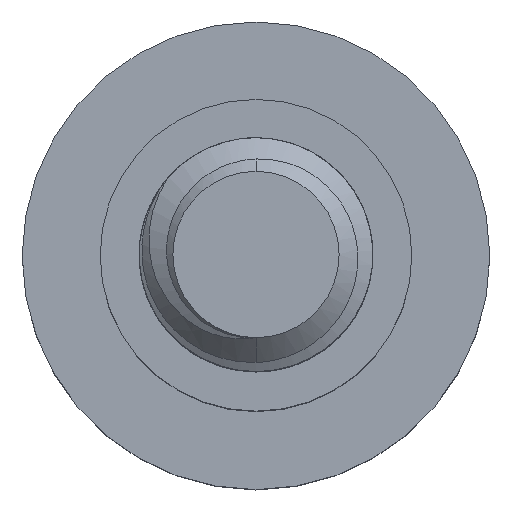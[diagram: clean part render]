
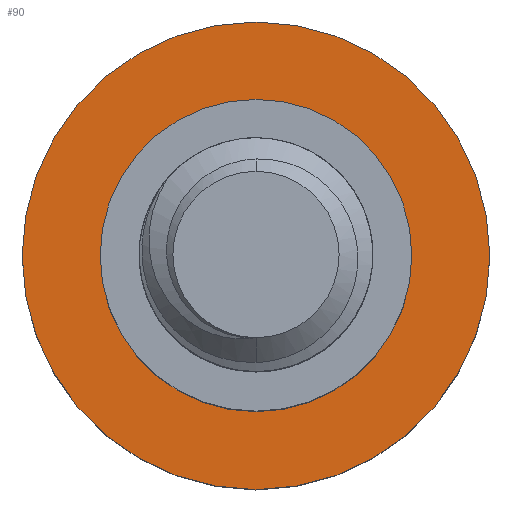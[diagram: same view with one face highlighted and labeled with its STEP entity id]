
A CAD part, top view. The second image highlights one B-rep face of the part: STEP entity #90.
In plain terms, the highlighted planar face has unit normal (0, 0, 1).
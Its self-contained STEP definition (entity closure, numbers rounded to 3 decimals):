
#13 = ORIENTED_EDGE ( 'NONE', *, *, #1671, .T. ) ;
#73 = DIRECTION ( 'NONE',  ( 0., 0., -1. ) ) ;
#90 = ADVANCED_FACE ( 'NONE', ( #756, #2461 ), #3384, .F. ) ;
#91 = VERTEX_POINT ( 'NONE', #3453 ) ;
#114 = CARTESIAN_POINT ( 'NONE',  ( 0., 0., -8. ) ) ;
#135 = DIRECTION ( 'NONE',  ( 0., 0., -1. ) ) ;
#248 = EDGE_CURVE ( 'NONE', #1297, #91, #4093, .T. ) ;
#375 = AXIS2_PLACEMENT_3D ( 'NONE', #2744, #2371, #2348 ) ;
#459 = ORIENTED_EDGE ( 'NONE', *, *, #3101, .F. ) ;
#486 = CARTESIAN_POINT ( 'NONE',  ( 4., 0., -8. ) ) ;
#561 = DIRECTION ( 'NONE',  ( -1., 0., 0. ) ) ;
#692 = DIRECTION ( 'NONE',  ( -1., 0., 0. ) ) ;
#717 = CIRCLE ( 'NONE', #2107, 4. ) ;
#756 = FACE_BOUND ( 'NONE', #3110, .T. ) ;
#789 = AXIS2_PLACEMENT_3D ( 'NONE', #1319, #2568, #3889 ) ;
#798 = CIRCLE ( 'NONE', #375, 6. ) ;
#912 = DIRECTION ( 'NONE',  ( 0., 0., -1. ) ) ;
#920 = CIRCLE ( 'NONE', #2719, 4. ) ;
#1297 = VERTEX_POINT ( 'NONE', #2336 ) ;
#1319 = CARTESIAN_POINT ( 'NONE',  ( 0., 0., -8. ) ) ;
#1541 = VERTEX_POINT ( 'NONE', #486 ) ;
#1671 = EDGE_CURVE ( 'NONE', #1541, #3467, #920, .T. ) ;
#2107 = AXIS2_PLACEMENT_3D ( 'NONE', #4182, #912, #561 ) ;
#2257 = ORIENTED_EDGE ( 'NONE', *, *, #248, .F. ) ;
#2336 = CARTESIAN_POINT ( 'NONE',  ( 6., 0., -8. ) ) ;
#2348 = DIRECTION ( 'NONE',  ( -1., 0., 0. ) ) ;
#2371 = DIRECTION ( 'NONE',  ( 0., 0., -1. ) ) ;
#2461 = FACE_OUTER_BOUND ( 'NONE', #3115, .T. ) ;
#2510 = EDGE_CURVE ( 'NONE', #3467, #1541, #717, .T. ) ;
#2568 = DIRECTION ( 'NONE',  ( 0., 0., -1. ) ) ;
#2660 = CARTESIAN_POINT ( 'NONE',  ( 0., 0., -8. ) ) ;
#2713 = AXIS2_PLACEMENT_3D ( 'NONE', #114, #135, #4057 ) ;
#2719 = AXIS2_PLACEMENT_3D ( 'NONE', #2660, #73, #692 ) ;
#2744 = CARTESIAN_POINT ( 'NONE',  ( 0., 0., -8. ) ) ;
#3101 = EDGE_CURVE ( 'NONE', #91, #1297, #798, .T. ) ;
#3110 = EDGE_LOOP ( 'NONE', ( #3381, #13 ) ) ;
#3115 = EDGE_LOOP ( 'NONE', ( #2257, #459 ) ) ;
#3381 = ORIENTED_EDGE ( 'NONE', *, *, #2510, .T. ) ;
#3384 = PLANE ( 'NONE',  #2713 ) ;
#3453 = CARTESIAN_POINT ( 'NONE',  ( -6., 0., -8. ) ) ;
#3467 = VERTEX_POINT ( 'NONE', #4088 ) ;
#3889 = DIRECTION ( 'NONE',  ( -1., 0., 0. ) ) ;
#4057 = DIRECTION ( 'NONE',  ( -1., 0., 0. ) ) ;
#4088 = CARTESIAN_POINT ( 'NONE',  ( -4., 0., -8. ) ) ;
#4093 = CIRCLE ( 'NONE', #789, 6. ) ;
#4182 = CARTESIAN_POINT ( 'NONE',  ( 0., 0., -8. ) ) ;
